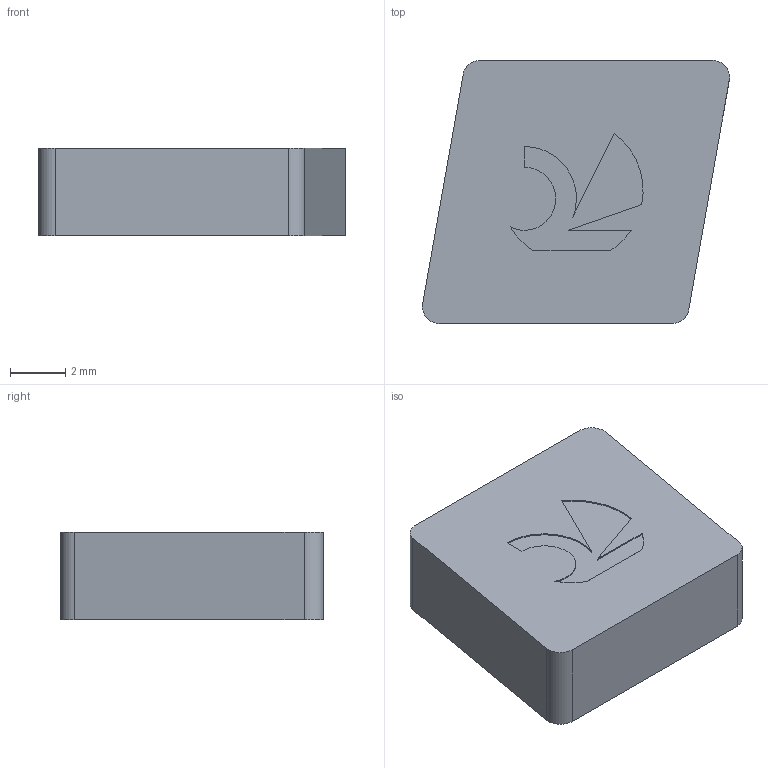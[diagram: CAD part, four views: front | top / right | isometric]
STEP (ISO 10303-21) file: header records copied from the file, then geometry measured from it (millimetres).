
FILE_DESCRIPTION(('no description'),'unknown implementation level');
FILE_NAME('solidnU57A9I9fGgB1qBVbN8h9YDzQ6E_1.STP',' ',('CIMSOURCE GmbH'),('CADClick - KiM GmbH - www.kimweb.de'),'unknown preprocess','ACIS','unknown authorization');
FILE_SCHEMA(('automotive_design'));
Length unit declared in the file: millimetre
Products named in the file (1): CUT
Bounding box: 11.12 x 9.53 x 3.18 mm (x, y, z)
Volume: 291.4 mm3; surface area: 304.2 mm2
Topology: 1 solids, 1 shells, 22 faces, 57 edges, 38 vertices
Faces by surface type: plane 12, cylinder 10
Entity records: 1362 total; most frequent: DIRECTION 125, CARTESIAN_POINT 119, STYLED_ITEM 118, PRESENTATION_STYLE_ASSIGNMENT 118, COLOUR_RGB 118, ORIENTED_EDGE 114, EDGE_CURVE 57, CURVE_STYLE 57
